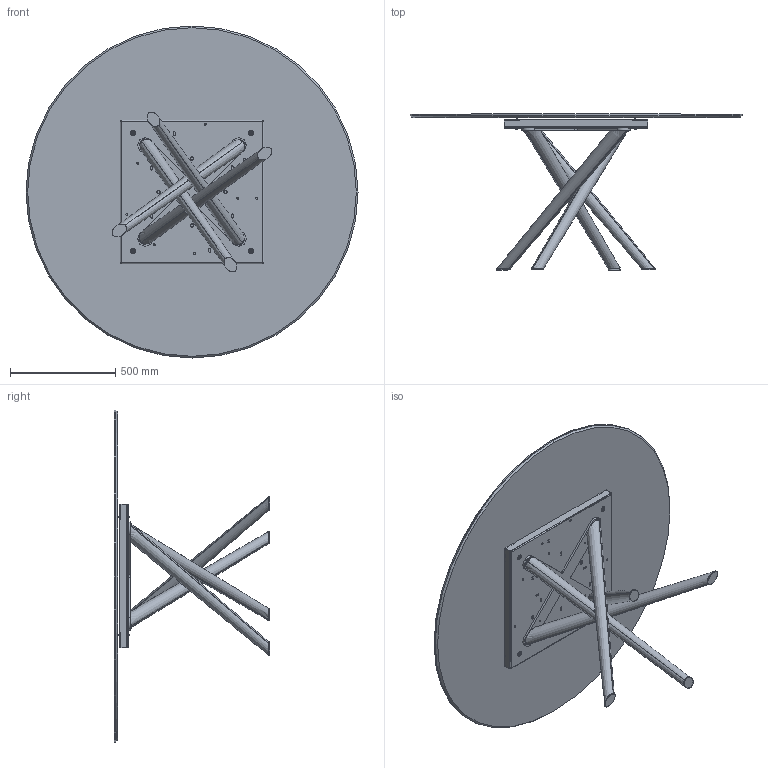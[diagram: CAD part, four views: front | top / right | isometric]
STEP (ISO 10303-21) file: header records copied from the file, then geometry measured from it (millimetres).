
FILE_DESCRIPTION (( 'STEP AP203' ), '1' );
FILE_NAME ('BA07C.STEP', '2024-08-08T06:35:21', ( '' ), ( '' ), 'SwSTEP 2.0', 'SolidWorks 2022', '' );
FILE_SCHEMA (( 'CONFIG_CONTROL_DESIGN' ));
Length unit declared in the file: millimetre
Products named in the file (12): BAB000000_01-00-Croce Superiore baly; BA07C; rondella M8_8X24; TTAV0801-02-TELAIO UNIVERSALE TONDO-VASSOIO; K1XCMXX-00-Piani Rotondi in ceramica_D.1580; Parte5^BAB000000-00-BALY BASE GREZZA; TTAV0801-02-TELAIO UNIVERSALE TONDO; BAB000000-00-BALY BASE GREZZA; COLLO TELAIO UNIVERSALE TTAV0801 CON FERRAMENTA_MTG TOP LEGNO-MARMO-KING; M8xXXmm_M8x55mm; TTAV0801 TELAIO UNIVERSALE TONDO-PIASTRINA; BAB000000_02-00-basamento pali conificati
Assembly tree (20 placements, depth 4):
  BA07C
    K1XCMXX-00-Piani Rotondi in ceramica_D.1580
    BAB000000-00-BALY BASE GREZZA
      BAB000000_01-00-Croce Superiore baly
      BAB000000_02-00-basamento pali conificati
      Parte5^BAB000000-00-BALY BASE GREZZA
    COLLO TELAIO UNIVERSALE TTAV0801 CON FERRAMENTA_MTG TOP LEGNO-MARMO-KING
      TTAV0801-02-TELAIO UNIVERSALE TONDO
        TTAV0801-02-TELAIO UNIVERSALE TONDO-VASSOIO
        TTAV0801 TELAIO UNIVERSALE TONDO-PIASTRINA  x4
      rondella M8_8X24  x4
      M8xXXmm_M8x55mm  x4
Bounding box: 1580 x 741 x 1580 mm (x, y, z)
Volume: 35890125.2 mm3; surface area: 10711621.2 mm2
Topology: 24 solids, 24 shells, 691 faces, 1771 edges, 1124 vertices
Faces by surface type: plane 312, cylinder 261, cone 62, torus 48, bspline 8
Entity records: 16595 total; most frequent: CARTESIAN_POINT 4092, DIRECTION 2327, ORIENTED_EDGE 2272, EDGE_CURVE 1136, AXIS2_PLACEMENT_3D 823, VERTEX_POINT 734, VECTOR 681, LINE 681
